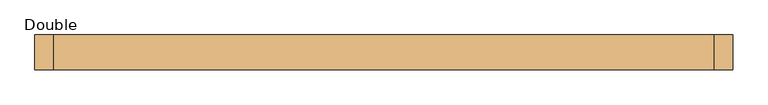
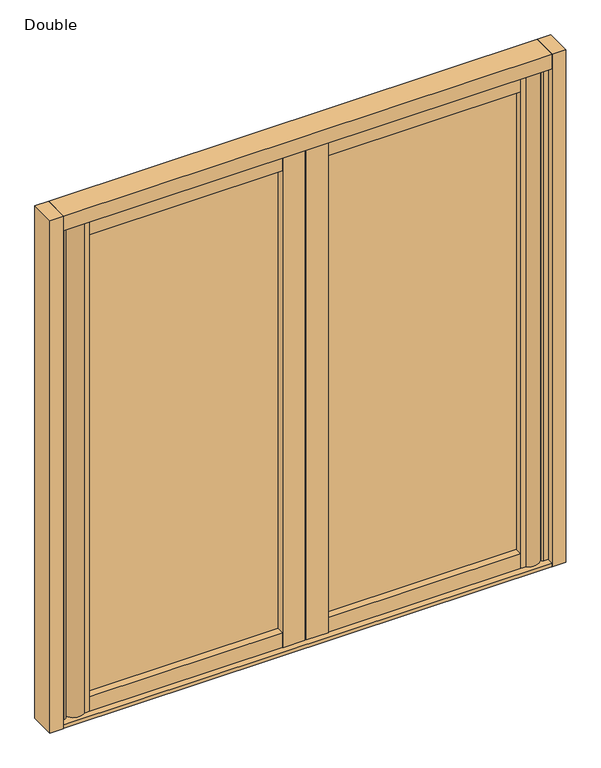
"""IFC4 building model written with IfcOpenShell, lengths in millimetres: door geometry, SMARTS_SmartWall : Double."""

from ifc_helpers import new_model, si_unit, point, frame, frame_2d, origin, place, context, project, spatial, polyline, circle_curve, trimmed, segment, composite_curve, outline, extrude, source, transform, mapped, element, save


def double_629bf229(model_context):
    return source(origin(), model_context, "Body", "SweptSolid", [
        extrude(outline(polyline([(-947.0585468, 54.49833), (-929.2495449, 54.49833), (-921.965126, 51.4062776), (-926.0287297, 41.8330271), (-926.0287297, 18.1636329), (-921.965126, 8.5903824), (-929.2495449, 5.49833), (-947.0585468, 5.49833), (-947.0585468, 54.49833)])), frame((0.0, 0.0, 825.0), z_axis=(0.0, 0.0, 1.0), x_axis=(1.0, 0.0, 0.0)), (0.0, 0.0, 1.0), 2025.0),
        extrude(outline(polyline([(947.0585468, 5.49833), (929.2495449, 5.49833), (921.965126, 8.5903824), (926.0287297, 18.1636329), (926.0287297, 41.8330271), (921.965126, 51.4062776), (929.2495449, 54.49833), (947.0585468, 54.49833), (947.0585468, 5.49833)])), frame((0.0, 0.0, 810.0), z_axis=(0.0, 0.0, 1.0), x_axis=(1.0, 0.0, 0.0)), (0.0, 0.0, 1.0), 2040.0),
        extrude(outline(polyline([(-88.2156397, 56.2428114), (-88.2156397, 28.2428114), (-836.1, 28.2428114), (-836.1, 56.2428114), (-88.2156397, 56.2428114)])), frame((0.0, 0.0, 891.0), z_axis=(0.0, 0.0, 1.0), x_axis=(1.0, 0.0, 0.0)), (0.0, 0.0, 1.0), 1893.0),
        extrude(outline(polyline([(836.0613093, 56.2428114), (836.0613093, 28.2428114), (88.0, 28.2428114), (88.0, 56.2428114), (836.0613093, 56.2428114)])), frame((0.0, 0.0, 891.0), z_axis=(0.0, 0.0, 1.0), x_axis=(1.0, 0.0, 0.0)), (0.0, 0.0, 1.0), 1893.0),
        extrude(outline(composite_curve([segment(trimmed(circle_curve(frame_2d((-882.0601718, 30.0355987)), 41.5), [point((-856.0033811, -2.264458))], [point((-856.2479151, 62.5314047))], False, "CARTESIAN"), True, "CONTINUOUS"), segment(polyline([(-856.2479151, 62.5314047), (-836.0613093, 62.4668875), (-836.0613093, -2.264458), (-856.0033811, -2.264458)]), True, "CONTINUOUS")], self_intersect=False)), frame((0.0, 0.0, 831.0), z_axis=(0.0, 0.0, 1.0), x_axis=(1.0, 0.0, 0.0)), (0.0, 0.0, 1.0), 2013.0),
        extrude(outline(polyline([(4.3645091, 63.4548082), (88.2156397, 63.4548082), (88.2156397, -3.5451901), (4.3645091, -3.5451901), (2.2184235, 16.8734509), (2.2184235, 43.0361673), (4.3645091, 63.4548082)])), frame((0.0, 0.0, 831.0), z_axis=(0.0, 0.0, 1.0), x_axis=(1.0, 0.0, 0.0)), (0.0, 0.0, 1.0), 2013.0),
        extrude(outline(polyline([(-1.7832198, 63.4548082), (-1.7832198, -3.5451901), (-87.7820808, -3.5451901), (-87.7820808, 63.4548082), (-1.7832198, 63.4548082)])), frame((0.0, 0.0, 831.0), z_axis=(0.0, 0.0, 1.0), x_axis=(1.0, 0.0, 0.0)), (0.0, 0.0, 1.0), 2013.0),
        extrude(outline(composite_curve([segment(polyline([(856.0033811, -2.264458), (836.0613093, -2.264458), (836.0613093, 62.4668875), (856.2479151, 62.5314047)]), True, "CONTINUOUS"), segment(trimmed(circle_curve(frame_2d((882.0601718, 30.0355987)), 41.5), [point((856.2479151, 62.5314047))], [point((856.0033811, -2.264458))], False, "CARTESIAN"), True, "CONTINUOUS")], self_intersect=False)), frame((0.0, 0.0, 831.0), z_axis=(0.0, 0.0, 1.0), x_axis=(1.0, 0.0, 0.0)), (0.0, 0.0, 1.0), 2013.0),
        extrude(outline(polyline([(-1000.0, 79.9975), (-947.0585468, 79.9975), (-947.0585468, -20.0), (-1000.0, -20.0), (-1000.0, 79.9975)])), frame((0.0, 0.0, 810.0), z_axis=(0.0, 0.0, 1.0), x_axis=(1.0, 0.0, 0.0)), (0.0, 0.0, 1.0), 2100.0),
        extrude(outline(polyline([(1000.0, 79.9975), (1000.0, -20.0), (947.0585468, -20.0), (947.0585468, 79.9975), (1000.0, 79.9975)])), frame((0.0, 0.0, 810.0), z_axis=(0.0, 0.0, 1.0), x_axis=(1.0, 0.0, 0.0)), (0.0, 0.0, 1.0), 2100.0),
        extrude(outline(polyline([(-945.0, -20.0), (-945.0, 79.9975), (945.0, 79.9975), (945.0, -20.0), (-945.0, -20.0)])), frame((0.0, 0.0, 810.0), z_axis=(0.0, 0.0, 1.0), x_axis=(1.0, 0.0, 0.0)), (0.0, 0.0, 1.0), 15.0),
        extrude(outline(polyline([(-87.7820808, 62.49875), (-87.7820808, -2.50125), (-836.1, -2.50125), (-836.1, 62.49875), (-87.7820808, 62.49875)])), frame((0.0, 0.0, 831.0), z_axis=(0.0, 0.0, 1.0), x_axis=(1.0, 0.0, 0.0)), (0.0, 0.0, 1.0), 60.0),
        extrude(outline(polyline([(-88.2156397, 62.49875), (-88.2156397, -2.50125), (-836.0613093, -2.50125), (-836.0613093, 62.49875), (-88.2156397, 62.49875)])), frame((0.0, 0.0, 2784.0), z_axis=(0.0, 0.0, 1.0), x_axis=(1.0, 0.0, 0.0)), (0.0, 0.0, 1.0), 60.0),
        extrude(outline(polyline([(88.0, -2.50125), (88.0, 62.49875), (836.0613093, 62.49875), (836.0613093, -2.50125), (88.0, -2.50125)])), frame((0.0, 0.0, 831.0), z_axis=(0.0, 0.0, 1.0), x_axis=(1.0, 0.0, 0.0)), (0.0, 0.0, 1.0), 60.0),
        extrude(outline(polyline([(88.0, -2.50125), (88.0, 62.49875), (836.0613093, 62.49875), (836.0613093, -2.50125), (88.0, -2.50125)])), frame((0.0, 0.0, 2784.0), z_axis=(0.0, 0.0, 1.0), x_axis=(1.0, 0.0, 0.0)), (0.0, 0.0, 1.0), 60.0),
        extrude(outline(polyline([(-947.0585468, -20.0), (-947.0585468, 79.9975), (947.0, 79.9975), (947.0, -20.0), (-947.0585468, -20.0)])), frame((0.0, 0.0, 2850.0), z_axis=(0.0, 0.0, 1.0), x_axis=(1.0, 0.0, 0.0)), (0.0, 0.0, 1.0), 60.0),
    ])


if __name__ == "__main__":
    model = new_model("IFC4")
    model_context = context("Model", 3, world=origin())
    ifc_project = project(units=[si_unit("LENGTHUNIT", "METRE", prefix="MILLI")], contexts=[model_context])
    site = spatial("IfcSite", under=ifc_project)
    building = spatial("IfcBuilding", under=site)
    placement = place(None, origin())
    double_shape = double_629bf229(model_context)
    element("IfcDoor", 1, ObjectType="SMARTS_SmartWall : Double", at=placement, inside=building, context=model_context, shape_type="MappedRepresentation", body=[
        mapped(double_shape, transform((0.0, 0.0, 0.0), x_axis=(1.0, 0.0, 0.0), y_axis=(0.0, 1.0, 0.0), z_axis=(0.0, 0.0, 1.0))),
    ])
    save(model, "model.ifc")
